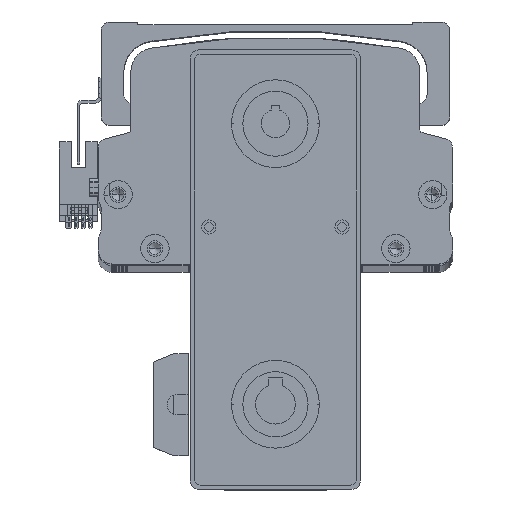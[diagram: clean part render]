
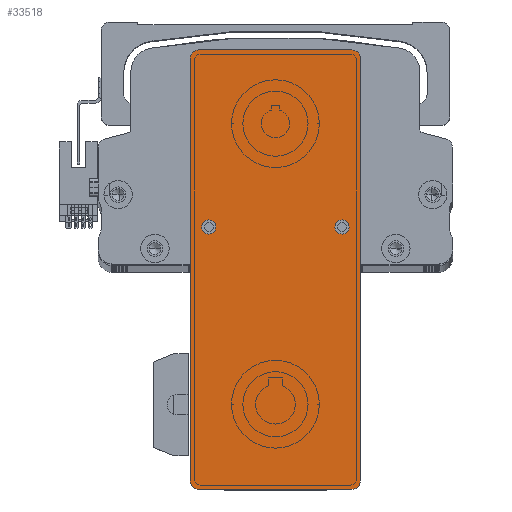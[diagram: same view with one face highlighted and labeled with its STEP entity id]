
A CAD part, top view. The second image highlights one B-rep face of the part: STEP entity #33518.
In plain terms, the highlighted planar face has unit normal (0, 0, 1) as drawn and (0, 0, -1) by its records, which use the part's own axes.
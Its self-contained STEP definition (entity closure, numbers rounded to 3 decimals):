
#981 = ORIENTED_EDGE ( 'NONE', *, *, #32060, .F. ) ;
#1795 = CARTESIAN_POINT ( 'NONE',  ( -77.5, -30., 0. ) ) ;
#3617 = EDGE_CURVE ( 'NONE', #83783, #83125, #61648, .T. ) ;
#3661 = CARTESIAN_POINT ( 'NONE',  ( 12.5, 23.5, 0. ) ) ;
#4868 = ORIENTED_EDGE ( 'NONE', *, *, #59296, .T. ) ;
#5030 = DIRECTION ( 'NONE',  ( -1., 0., 0. ) ) ;
#5144 = ORIENTED_EDGE ( 'NONE', *, *, #53862, .F. ) ;
#5440 = VERTEX_POINT ( 'NONE', #52824 ) ;
#5752 = DIRECTION ( 'NONE',  ( 0., 0., -1. ) ) ;
#6753 = EDGE_CURVE ( 'NONE', #83783, #11117, #77301, .T. ) ;
#6935 = ORIENTED_EDGE ( 'NONE', *, *, #83343, .F. ) ;
#7107 = VECTOR ( 'NONE', #72771, 1000. ) ;
#7197 = VERTEX_POINT ( 'NONE', #68120 ) ;
#8028 = VECTOR ( 'NONE', #32795, 1000. ) ;
#9081 = CARTESIAN_POINT ( 'NONE',  ( 12.5, -23.5, 0. ) ) ;
#9236 = DIRECTION ( 'NONE',  ( 0., 0., -1. ) ) ;
#10248 = CARTESIAN_POINT ( 'NONE',  ( -77.5, -27., 0. ) ) ;
#11117 = VERTEX_POINT ( 'NONE', #19461 ) ;
#11657 = CARTESIAN_POINT ( 'NONE',  ( 15., 23.5, 0. ) ) ;
#12075 = EDGE_CURVE ( 'NONE', #54282, #30443, #66395, .T. ) ;
#12448 = ORIENTED_EDGE ( 'NONE', *, *, #20830, .F. ) ;
#12546 = ORIENTED_EDGE ( 'NONE', *, *, #28762, .T. ) ;
#12596 = VECTOR ( 'NONE', #47950, 1000. ) ;
#15392 = FACE_OUTER_BOUND ( 'NONE', #85359, .T. ) ;
#15818 = AXIS2_PLACEMENT_3D ( 'NONE', #74477, #35091, #81158 ) ;
#16637 = EDGE_CURVE ( 'NONE', #30443, #54282, #83835, .T. ) ;
#17251 = DIRECTION ( 'NONE',  ( 0., 0., -1. ) ) ;
#18312 = DIRECTION ( 'NONE',  ( -1., 0., 0. ) ) ;
#18539 = DIRECTION ( 'NONE',  ( 0., 0., 1. ) ) ;
#19461 = CARTESIAN_POINT ( 'NONE',  ( 77.5, 27., 0. ) ) ;
#20521 = CIRCLE ( 'NONE', #41169, 3. ) ;
#20830 = EDGE_CURVE ( 'NONE', #22641, #7197, #35100, .T. ) ;
#22641 = VERTEX_POINT ( 'NONE', #3661 ) ;
#22742 = EDGE_LOOP ( 'NONE', ( #60957, #23422 ) ) ;
#23117 = AXIS2_PLACEMENT_3D ( 'NONE', #58144, #18539, #64748 ) ;
#23422 = ORIENTED_EDGE ( 'NONE', *, *, #12075, .F. ) ;
#25649 = LINE ( 'NONE', #52428, #8028 ) ;
#25741 = VERTEX_POINT ( 'NONE', #62709 ) ;
#27725 = CARTESIAN_POINT ( 'NONE',  ( -74.5, -30., 0. ) ) ;
#28762 = EDGE_CURVE ( 'NONE', #59723, #11117, #20521, .T. ) ;
#29976 = VERTEX_POINT ( 'NONE', #27725 ) ;
#30443 = VERTEX_POINT ( 'NONE', #9081 ) ;
#32060 = EDGE_CURVE ( 'NONE', #25741, #60521, #65286, .T. ) ;
#32698 = CARTESIAN_POINT ( 'NONE',  ( 77.5, -30., 0. ) ) ;
#32795 = DIRECTION ( 'NONE',  ( -1., 0., 0. ) ) ;
#33382 = ORIENTED_EDGE ( 'NONE', *, *, #3617, .T. ) ;
#33518 = ADVANCED_FACE ( 'NONE', ( #50547, #48436, #15392 ), #77640, .F. ) ;
#33850 = AXIS2_PLACEMENT_3D ( 'NONE', #11657, #57891, #18312 ) ;
#34631 = AXIS2_PLACEMENT_3D ( 'NONE', #84067, #44605, #5030 ) ;
#35091 = DIRECTION ( 'NONE',  ( 0., 0., -1. ) ) ;
#35100 = CIRCLE ( 'NONE', #33850, 2.5 ) ;
#35113 = CARTESIAN_POINT ( 'NONE',  ( 15., 23.5, 0. ) ) ;
#36971 = EDGE_CURVE ( 'NONE', #29976, #83125, #61019, .T. ) ;
#39162 = CARTESIAN_POINT ( 'NONE',  ( 74.5, -30., 0. ) ) ;
#39234 = CARTESIAN_POINT ( 'NONE',  ( 15., -23.5, 0. ) ) ;
#41169 = AXIS2_PLACEMENT_3D ( 'NONE', #45307, #5752, #52008 ) ;
#41734 = DIRECTION ( 'NONE',  ( -1., 0., 0. ) ) ;
#44605 = DIRECTION ( 'NONE',  ( 0., 0., -1. ) ) ;
#45307 = CARTESIAN_POINT ( 'NONE',  ( 74.5, 27., 0. ) ) ;
#45866 = DIRECTION ( 'NONE',  ( -1., 0., 0. ) ) ;
#46229 = EDGE_CURVE ( 'NONE', #25741, #5440, #77351, .T. ) ;
#46953 = ORIENTED_EDGE ( 'NONE', *, *, #46229, .T. ) ;
#47950 = DIRECTION ( 'NONE',  ( 0., -1., 0. ) ) ;
#48436 = FACE_BOUND ( 'NONE', #22742, .T. ) ;
#48812 = CARTESIAN_POINT ( 'NONE',  ( 74.5, -27., 0. ) ) ;
#50547 = FACE_BOUND ( 'NONE', #61213, .T. ) ;
#52008 = DIRECTION ( 'NONE',  ( 1., 0., 0. ) ) ;
#52428 = CARTESIAN_POINT ( 'NONE',  ( 77.5, 30., 0. ) ) ;
#52824 = CARTESIAN_POINT ( 'NONE',  ( -74.5, 30., 0. ) ) ;
#53029 = CARTESIAN_POINT ( 'NONE',  ( 77.5, -30., 0. ) ) ;
#53862 = EDGE_CURVE ( 'NONE', #59723, #5440, #25649, .T. ) ;
#54282 = VERTEX_POINT ( 'NONE', #79251 ) ;
#55480 = DIRECTION ( 'NONE',  ( 1., 0., 0. ) ) ;
#55654 = ORIENTED_EDGE ( 'NONE', *, *, #36971, .F. ) ;
#56274 = CIRCLE ( 'NONE', #63843, 2.5 ) ;
#56830 = CARTESIAN_POINT ( 'NONE',  ( -74.5, 27., 0. ) ) ;
#57891 = DIRECTION ( 'NONE',  ( 0., 0., -1. ) ) ;
#58144 = CARTESIAN_POINT ( 'NONE',  ( 0., 0., 0. ) ) ;
#58465 = AXIS2_PLACEMENT_3D ( 'NONE', #48812, #9236, #55480 ) ;
#59296 = EDGE_CURVE ( 'NONE', #29976, #60521, #65175, .T. ) ;
#59723 = VERTEX_POINT ( 'NONE', #60661 ) ;
#60521 = VERTEX_POINT ( 'NONE', #10248 ) ;
#60661 = CARTESIAN_POINT ( 'NONE',  ( 74.5, 30., 0. ) ) ;
#60957 = ORIENTED_EDGE ( 'NONE', *, *, #16637, .F. ) ;
#61019 = LINE ( 'NONE', #32698, #76380 ) ;
#61213 = EDGE_LOOP ( 'NONE', ( #12448, #6935 ) ) ;
#61648 = CIRCLE ( 'NONE', #58465, 3. ) ;
#61875 = CARTESIAN_POINT ( 'NONE',  ( 77.5, -27., 0. ) ) ;
#62709 = CARTESIAN_POINT ( 'NONE',  ( -77.5, 27., 0. ) ) ;
#63467 = DIRECTION ( 'NONE',  ( 1., 0., 0. ) ) ;
#63843 = AXIS2_PLACEMENT_3D ( 'NONE', #35113, #81179, #41734 ) ;
#64748 = DIRECTION ( 'NONE',  ( 1., 0., 0. ) ) ;
#65175 = CIRCLE ( 'NONE', #15818, 3. ) ;
#65286 = LINE ( 'NONE', #1795, #12596 ) ;
#66381 = ORIENTED_EDGE ( 'NONE', *, *, #6753, .F. ) ;
#66395 = CIRCLE ( 'NONE', #76024, 2.5 ) ;
#68120 = CARTESIAN_POINT ( 'NONE',  ( 17.5, 23.5, 0. ) ) ;
#72771 = DIRECTION ( 'NONE',  ( 0., 1., 0. ) ) ;
#73323 = AXIS2_PLACEMENT_3D ( 'NONE', #56830, #17251, #63467 ) ;
#74477 = CARTESIAN_POINT ( 'NONE',  ( -74.5, -27., 0. ) ) ;
#76024 = AXIS2_PLACEMENT_3D ( 'NONE', #39234, #85322, #45866 ) ;
#76380 = VECTOR ( 'NONE', #85110, 1000. ) ;
#77301 = LINE ( 'NONE', #53029, #7107 ) ;
#77351 = CIRCLE ( 'NONE', #73323, 3. ) ;
#77640 = PLANE ( 'NONE',  #23117 ) ;
#79251 = CARTESIAN_POINT ( 'NONE',  ( 17.5, -23.5, 0. ) ) ;
#81158 = DIRECTION ( 'NONE',  ( 1., 0., 0. ) ) ;
#81179 = DIRECTION ( 'NONE',  ( 0., 0., -1. ) ) ;
#83125 = VERTEX_POINT ( 'NONE', #39162 ) ;
#83343 = EDGE_CURVE ( 'NONE', #7197, #22641, #56274, .T. ) ;
#83783 = VERTEX_POINT ( 'NONE', #61875 ) ;
#83835 = CIRCLE ( 'NONE', #34631, 2.5 ) ;
#84067 = CARTESIAN_POINT ( 'NONE',  ( 15., -23.5, 0. ) ) ;
#85110 = DIRECTION ( 'NONE',  ( 1., 0., 0. ) ) ;
#85322 = DIRECTION ( 'NONE',  ( 0., 0., -1. ) ) ;
#85359 = EDGE_LOOP ( 'NONE', ( #66381, #33382, #55654, #4868, #981, #46953, #5144, #12546 ) ) ;
